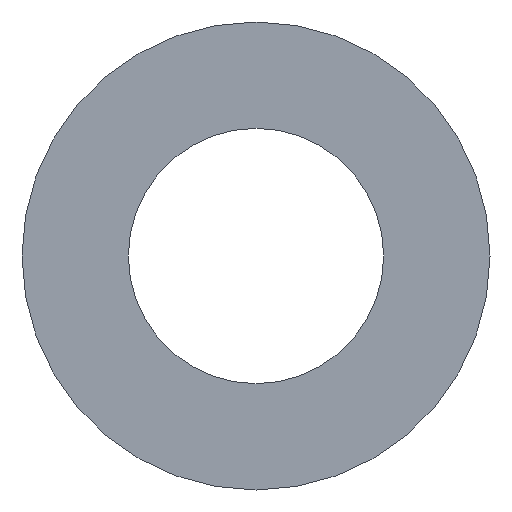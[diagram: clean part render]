
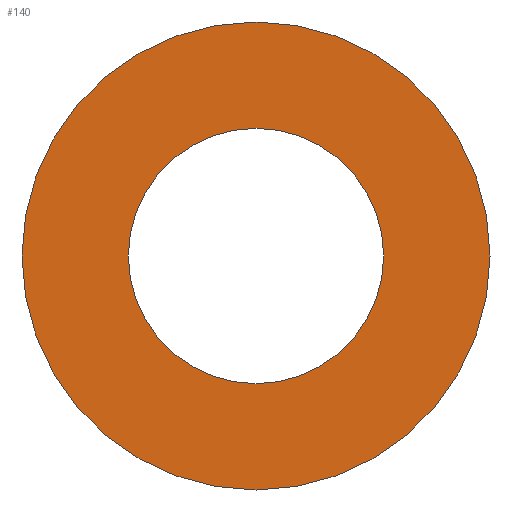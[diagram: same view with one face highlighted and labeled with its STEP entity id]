
A CAD part, left-side view. The second image highlights one B-rep face of the part: STEP entity #140.
In plain terms, the highlighted planar face has unit normal (-1, 0, 0).
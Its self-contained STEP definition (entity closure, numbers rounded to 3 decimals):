
#31 = CYLINDRICAL_SURFACE('',#32,5.5);
#32 = AXIS2_PLACEMENT_3D('',#33,#34,#35);
#33 = CARTESIAN_POINT('',(674.,0.,-22.));
#34 = DIRECTION('',(1.,0.,0.));
#35 = DIRECTION('',(-0.,0.,1.));
#56 = VERTEX_POINT('',#57);
#57 = CARTESIAN_POINT('',(674.,0.,-16.5));
#78 = EDGE_CURVE('',#56,#56,#79,.T.);
#79 = SURFACE_CURVE('',#80,(#85,#92),.PCURVE_S1.);
#80 = CIRCLE('',#81,5.5);
#81 = AXIS2_PLACEMENT_3D('',#82,#83,#84);
#82 = CARTESIAN_POINT('',(674.,0.,-22.));
#83 = DIRECTION('',(1.,0.,0.));
#84 = DIRECTION('',(-0.,0.,1.));
#85 = PCURVE('',#31,#86);
#86 = DEFINITIONAL_REPRESENTATION('',(#87),#91);
#87 = LINE('',#88,#89);
#88 = CARTESIAN_POINT('',(0.,0.));
#89 = VECTOR('',#90,1.);
#90 = DIRECTION('',(1.,0.));
#91 = ( GEOMETRIC_REPRESENTATION_CONTEXT(2) 
PARAMETRIC_REPRESENTATION_CONTEXT() REPRESENTATION_CONTEXT('2D SPACE',''
  ) );
#92 = PCURVE('',#93,#98);
#93 = PLANE('',#94);
#94 = AXIS2_PLACEMENT_3D('',#95,#96,#97);
#95 = CARTESIAN_POINT('',(674.,0.,-22.));
#96 = DIRECTION('',(1.,0.,0.));
#97 = DIRECTION('',(-0.,0.,1.));
#98 = DEFINITIONAL_REPRESENTATION('',(#99),#103);
#99 = CIRCLE('',#100,5.5);
#100 = AXIS2_PLACEMENT_2D('',#101,#102);
#101 = CARTESIAN_POINT('',(0.,0.));
#102 = DIRECTION('',(1.,0.));
#103 = ( GEOMETRIC_REPRESENTATION_CONTEXT(2) 
PARAMETRIC_REPRESENTATION_CONTEXT() REPRESENTATION_CONTEXT('2D SPACE',''
  ) );
#129 = CYLINDRICAL_SURFACE('',#130,3.);
#130 = AXIS2_PLACEMENT_3D('',#131,#132,#133);
#131 = CARTESIAN_POINT('',(672.,0.,-22.));
#132 = DIRECTION('',(1.,0.,0.));
#133 = DIRECTION('',(-0.,0.,1.));
#140 = ADVANCED_FACE('',(#141,#144),#93,.F.);
#141 = FACE_BOUND('',#142,.F.);
#142 = EDGE_LOOP('',(#143));
#143 = ORIENTED_EDGE('',*,*,#78,.T.);
#144 = FACE_BOUND('',#145,.F.);
#145 = EDGE_LOOP('',(#146));
#146 = ORIENTED_EDGE('',*,*,#147,.F.);
#147 = EDGE_CURVE('',#148,#148,#150,.T.);
#148 = VERTEX_POINT('',#149);
#149 = CARTESIAN_POINT('',(674.,0.,-19.));
#150 = SURFACE_CURVE('',#151,(#156,#163),.PCURVE_S1.);
#151 = CIRCLE('',#152,3.);
#152 = AXIS2_PLACEMENT_3D('',#153,#154,#155);
#153 = CARTESIAN_POINT('',(674.,0.,-22.));
#154 = DIRECTION('',(1.,0.,0.));
#155 = DIRECTION('',(-0.,0.,1.));
#156 = PCURVE('',#93,#157);
#157 = DEFINITIONAL_REPRESENTATION('',(#158),#162);
#158 = CIRCLE('',#159,3.);
#159 = AXIS2_PLACEMENT_2D('',#160,#161);
#160 = CARTESIAN_POINT('',(0.,0.));
#161 = DIRECTION('',(1.,0.));
#162 = ( GEOMETRIC_REPRESENTATION_CONTEXT(2) 
PARAMETRIC_REPRESENTATION_CONTEXT() REPRESENTATION_CONTEXT('2D SPACE',''
  ) );
#163 = PCURVE('',#129,#164);
#164 = DEFINITIONAL_REPRESENTATION('',(#165),#169);
#165 = LINE('',#166,#167);
#166 = CARTESIAN_POINT('',(0.,2.));
#167 = VECTOR('',#168,1.);
#168 = DIRECTION('',(1.,0.));
#169 = ( GEOMETRIC_REPRESENTATION_CONTEXT(2) 
PARAMETRIC_REPRESENTATION_CONTEXT() REPRESENTATION_CONTEXT('2D SPACE',''
  ) );
